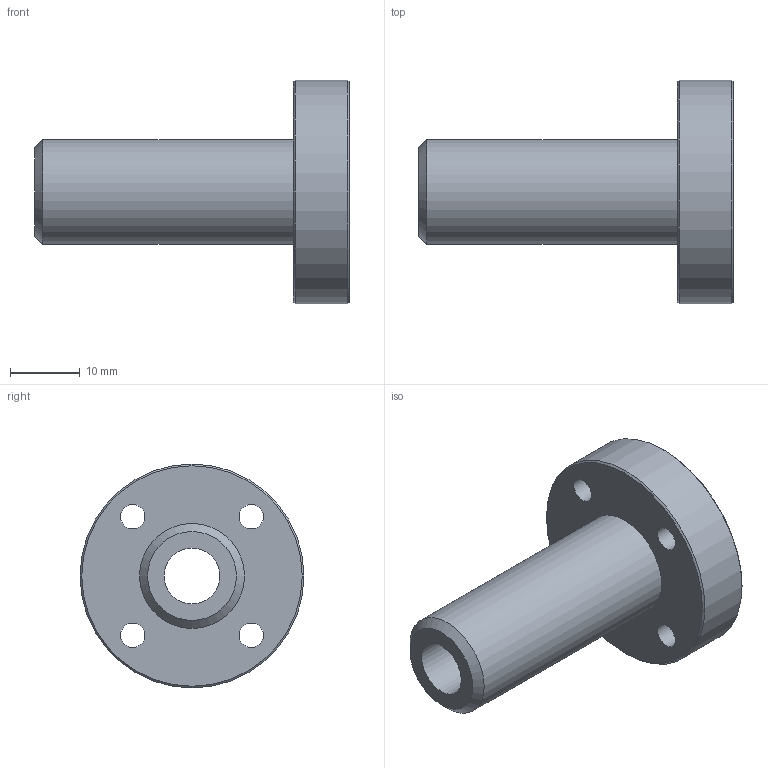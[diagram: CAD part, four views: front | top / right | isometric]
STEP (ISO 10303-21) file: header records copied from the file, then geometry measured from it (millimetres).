
FILE_DESCRIPTION(('STEP AP203'),'1');
FILE_NAME('//192.168.1.1/share/s-4 技術開発/s-4-4_CAD/s-4-4-3_見直し済み/PBC LINEAR修正済み/DFPJ/DFPJ_TOP/DFPJR/DFPJR08.step','2022-03-24T05:41:09',(' '),(' '),'Spatial InterOp 3D',' ',' ');
FILE_SCHEMA(('CONFIG_CONTROL_DESIGN'));
Length unit declared in the file: millimetre
Products named in the file (1): 1
Bounding box: 45 x 32 x 32 mm (x, y, z)
Volume: 10135.3 mm3; surface area: 5495.5 mm2
Topology: 1 solids, 1 shells, 21 faces, 43 edges, 29 vertices
Faces by surface type: cylinder 11, plane 7, cone 3
Full cylindrical faces by diameter (mm): 3.5 x4, 6 x4, 8 x1, 15 x1, 32 x1
Entity records: 528 total; most frequent: DIRECTION 94, CARTESIAN_POINT 72, EDGE_LOOP 50, ORIENTED_EDGE 50, AXIS2_PLACEMENT_3D 47, FACE_OUTER_BOUND 32, EDGE_CURVE 25, VERTEX_POINT 25
